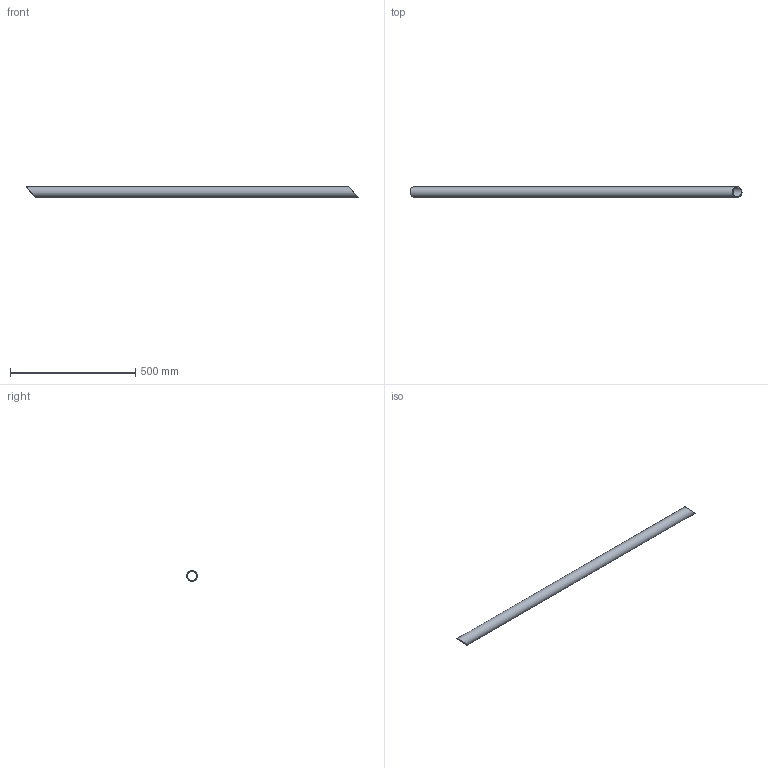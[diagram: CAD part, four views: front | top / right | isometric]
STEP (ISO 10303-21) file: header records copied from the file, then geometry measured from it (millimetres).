
FILE_DESCRIPTION(/* description */ (''),/* implementation_level */ '2;1');
FILE_NAME(/* name */ 'Pos163-Constructie buis 42.4x2.6-S235JRH-3st',/* time_stamp */ '2024-08-06T13:37:44+02:00',/* author */ (''),/* organization */ (''),/* preprocessor_version */ 'ST-DEVELOPER v16.5',/* originating_system */ 'HiCAD 2024 2901.2 Build 361',/* authorisation */ '');
FILE_SCHEMA (('AUTOMOTIVE_DESIGN { 1 0 10303 214 1 1 1 1 }'));
Length unit declared in the file: millimetre
Products named in the file (1): Pos163-Constructie buis 42.4x2.6-S235JRH-3st
Bounding box: 1324.2 x 42.29 x 42.4 mm (x, y, z)
Volume: 418056.1 mm3; surface area: 322457.1 mm2
Topology: 1 solids, 1 shells, 4 faces, 6 edges, 4 vertices
Faces by surface type: cylinder 2, plane 2
Full cylindrical faces by diameter (mm): 37.2 x1, 42.4 x1
Entity records: 146 total; most frequent: DIRECTION 16, CARTESIAN_POINT 12, PRESENTATION_STYLE_ASSIGNMENT 9, COLOUR_RGB 9, DRAUGHTING_PRE_DEFINED_CURVE_FONT 8, CURVE_STYLE 8, OVER_RIDING_STYLED_ITEM 8, ORIENTED_EDGE 8
